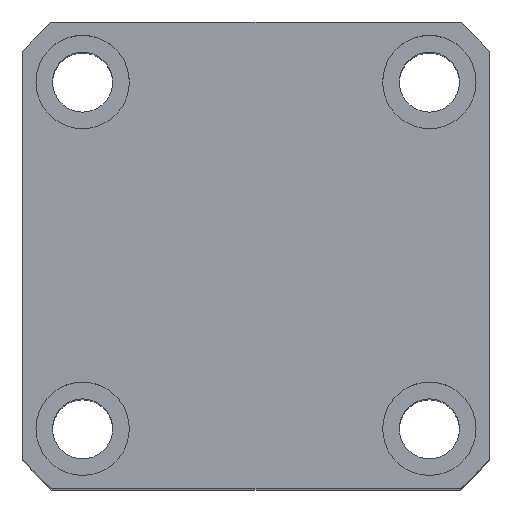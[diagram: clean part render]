
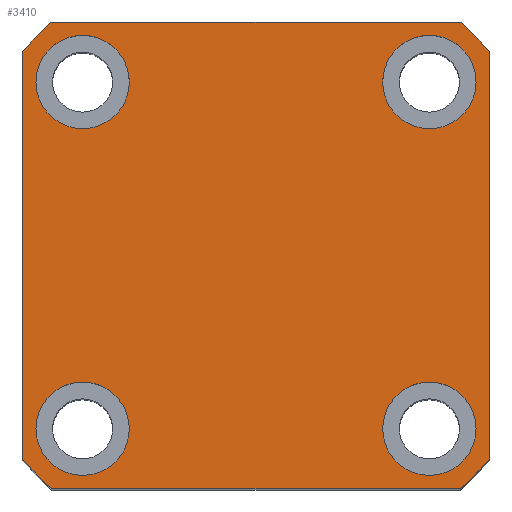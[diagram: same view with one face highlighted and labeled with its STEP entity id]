
A CAD part, top view. The second image highlights one B-rep face of the part: STEP entity #3410.
In plain terms, the highlighted planar face has unit normal (0, 0, 1).
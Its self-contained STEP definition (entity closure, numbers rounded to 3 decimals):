
#3410=ADVANCED_FACE('',(#4170,#4171,#4172,#4173,#4174),#3836,.T.);
#3836=PLANE('',#11134);
#4170=FACE_BOUND('',#4368,.T.);
#4171=FACE_BOUND('',#4369,.T.);
#4172=FACE_BOUND('',#4370,.T.);
#4173=FACE_BOUND('',#4371,.T.);
#4174=FACE_BOUND('',#4372,.T.);
#4368=EDGE_LOOP('',(#6623));
#4369=EDGE_LOOP('',(#6624));
#4370=EDGE_LOOP('',(#6625));
#4371=EDGE_LOOP('',(#6626));
#4372=EDGE_LOOP('',(#6627,#6628,#6629,#6630,#6631,#6632,#6633,#6634));
#4880=LINE('',#13295,#5672);
#4886=LINE('',#13523,#5678);
#4890=LINE('',#13532,#5682);
#4894=LINE('',#13541,#5686);
#5672=VECTOR('',#11519,1.);
#5678=VECTOR('',#11649,1.);
#5682=VECTOR('',#11655,1.);
#5686=VECTOR('',#11661,1.);
#6623=ORIENTED_EDGE('',*,*,#9824,.F.);
#6624=ORIENTED_EDGE('',*,*,#9826,.F.);
#6625=ORIENTED_EDGE('',*,*,#9828,.F.);
#6626=ORIENTED_EDGE('',*,*,#9830,.F.);
#6627=ORIENTED_EDGE('',*,*,#9785,.T.);
#6628=ORIENTED_EDGE('',*,*,#9844,.T.);
#6629=ORIENTED_EDGE('',*,*,#9833,.T.);
#6630=ORIENTED_EDGE('',*,*,#9845,.T.);
#6631=ORIENTED_EDGE('',*,*,#9837,.T.);
#6632=ORIENTED_EDGE('',*,*,#9846,.T.);
#6633=ORIENTED_EDGE('',*,*,#9841,.T.);
#6634=ORIENTED_EDGE('',*,*,#9847,.T.);
#8936=VERTEX_POINT('',#13293);
#8938=VERTEX_POINT('',#13296);
#8975=VERTEX_POINT('',#13501);
#8977=VERTEX_POINT('',#13506);
#8979=VERTEX_POINT('',#13511);
#8981=VERTEX_POINT('',#13516);
#8983=VERTEX_POINT('',#13521);
#8985=VERTEX_POINT('',#13524);
#8987=VERTEX_POINT('',#13530);
#8989=VERTEX_POINT('',#13533);
#8991=VERTEX_POINT('',#13539);
#8993=VERTEX_POINT('',#13542);
#9785=EDGE_CURVE('',#8938,#8936,#4880,.T.);
#9824=EDGE_CURVE('',#8975,#8975,#11001,.T.);
#9826=EDGE_CURVE('',#8977,#8977,#11003,.T.);
#9828=EDGE_CURVE('',#8979,#8979,#11005,.T.);
#9830=EDGE_CURVE('',#8981,#8981,#11007,.T.);
#9833=EDGE_CURVE('',#8985,#8983,#4886,.T.);
#9837=EDGE_CURVE('',#8989,#8987,#4890,.T.);
#9841=EDGE_CURVE('',#8993,#8991,#4894,.T.);
#9844=EDGE_CURVE('',#8936,#8985,#11009,.T.);
#9845=EDGE_CURVE('',#8983,#8989,#11010,.T.);
#9846=EDGE_CURVE('',#8987,#8993,#11011,.T.);
#9847=EDGE_CURVE('',#8991,#8938,#11012,.T.);
#11001=CIRCLE('',#11115,7.);
#11003=CIRCLE('',#11118,7.);
#11005=CIRCLE('',#11121,7.);
#11007=CIRCLE('',#11124,7.);
#11009=CIRCLE('',#11130,46.5);
#11010=CIRCLE('',#11131,46.5);
#11011=CIRCLE('',#11132,46.5);
#11012=CIRCLE('',#11133,46.5);
#11115=AXIS2_PLACEMENT_3D('',#13500,#11624,#11625);
#11118=AXIS2_PLACEMENT_3D('',#13505,#11630,#11631);
#11121=AXIS2_PLACEMENT_3D('',#13510,#11636,#11637);
#11124=AXIS2_PLACEMENT_3D('',#13515,#11642,#11643);
#11130=AXIS2_PLACEMENT_3D('',#13547,#11666,#11667);
#11131=AXIS2_PLACEMENT_3D('',#13548,#11668,#11669);
#11132=AXIS2_PLACEMENT_3D('',#13549,#11670,#11671);
#11133=AXIS2_PLACEMENT_3D('',#13550,#11672,#11673);
#11134=AXIS2_PLACEMENT_3D('',#13551,#11674,#11675);
#11519=DIRECTION('',(0.,1.,0.));
#11624=DIRECTION('',(0.,0.,1.));
#11625=DIRECTION('',(1.,0.,0.));
#11630=DIRECTION('',(0.,0.,1.));
#11631=DIRECTION('',(1.,0.,0.));
#11636=DIRECTION('',(0.,0.,1.));
#11637=DIRECTION('',(1.,0.,0.));
#11642=DIRECTION('',(0.,0.,1.));
#11643=DIRECTION('',(1.,0.,0.));
#11649=DIRECTION('',(-1.,0.,0.));
#11655=DIRECTION('',(0.,-1.,0.));
#11661=DIRECTION('',(1.,0.,0.));
#11666=DIRECTION('',(0.,0.,1.));
#11667=DIRECTION('',(1.,0.,0.));
#11668=DIRECTION('',(0.,0.,1.));
#11669=DIRECTION('',(1.,0.,0.));
#11670=DIRECTION('',(0.,0.,1.));
#11671=DIRECTION('',(1.,0.,0.));
#11672=DIRECTION('',(0.,0.,1.));
#11673=DIRECTION('',(1.,0.,0.));
#11674=DIRECTION('',(0.,0.,1.));
#11675=DIRECTION('',(-1.,0.,0.));
#13293=CARTESIAN_POINT('',(-52.839,-7.701,65.085));
#13295=CARTESIAN_POINT('',(-52.839,-3.315,65.085));
#13296=CARTESIAN_POINT('',(-52.839,-68.93,65.085));
#13500=CARTESIAN_POINT('',(-113.839,-64.315,65.085));
#13501=CARTESIAN_POINT('',(-106.839,-64.315,65.085));
#13505=CARTESIAN_POINT('',(-61.839,-64.315,65.085));
#13506=CARTESIAN_POINT('',(-54.839,-64.315,65.085));
#13510=CARTESIAN_POINT('',(-61.839,-12.315,65.085));
#13511=CARTESIAN_POINT('',(-54.839,-12.315,65.085));
#13515=CARTESIAN_POINT('',(-113.839,-12.315,65.085));
#13516=CARTESIAN_POINT('',(-106.839,-12.315,65.085));
#13521=CARTESIAN_POINT('',(-118.453,-3.315,65.085));
#13523=CARTESIAN_POINT('',(-122.839,-3.315,65.085));
#13524=CARTESIAN_POINT('',(-57.224,-3.315,65.085));
#13530=CARTESIAN_POINT('',(-122.839,-68.93,65.085));
#13532=CARTESIAN_POINT('',(-122.839,-3.315,65.085));
#13533=CARTESIAN_POINT('',(-122.839,-7.701,65.085));
#13539=CARTESIAN_POINT('',(-57.224,-73.315,65.085));
#13541=CARTESIAN_POINT('',(-122.839,-73.315,65.085));
#13542=CARTESIAN_POINT('',(-118.453,-73.315,65.085));
#13547=CARTESIAN_POINT('',(-87.839,-38.315,65.085));
#13548=CARTESIAN_POINT('',(-87.839,-38.315,65.085));
#13549=CARTESIAN_POINT('',(-87.839,-38.315,65.085));
#13550=CARTESIAN_POINT('',(-87.839,-38.315,65.085));
#13551=CARTESIAN_POINT('',(-87.839,-38.315,65.085));
